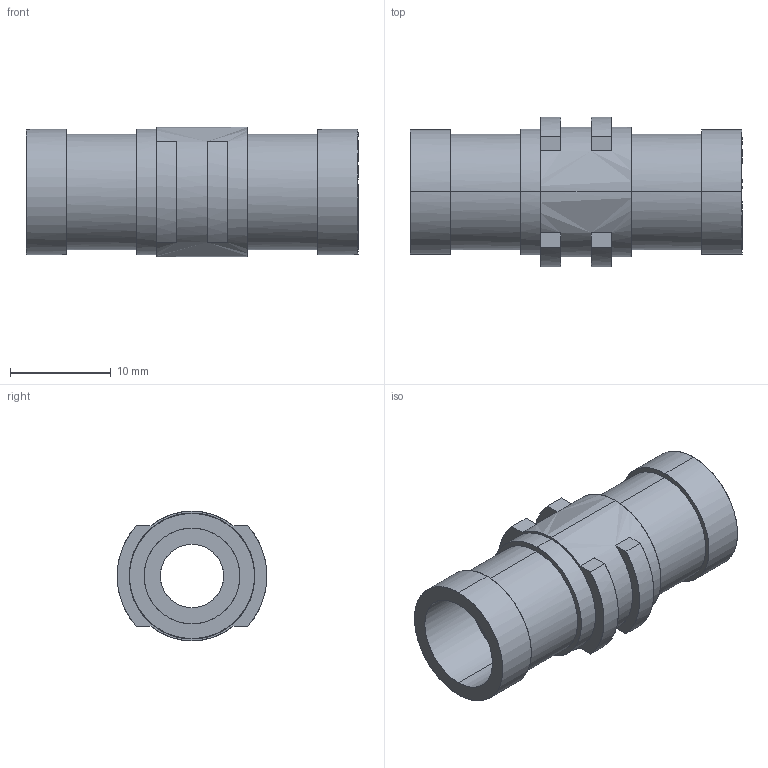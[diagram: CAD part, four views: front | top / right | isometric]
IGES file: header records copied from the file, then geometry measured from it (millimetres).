
Start section: Comment
Global section: file name: 70-9.5U-P.igs; native system:  By Spatial Corp.; preprocessor: XPlus GENERIC/IGES 3.0; author: Author; organization: Title; date: 20100222.105803; units: inch
Bounding box: 33 x 14.86 x 12.9 mm (x, y, z)
Surface area: 2423.6 mm2 (no closed solid volume)
Topology: 0 solids, 0 shells, 45 faces, 204 edges, 204 vertices
Faces by surface type: bspline 45
